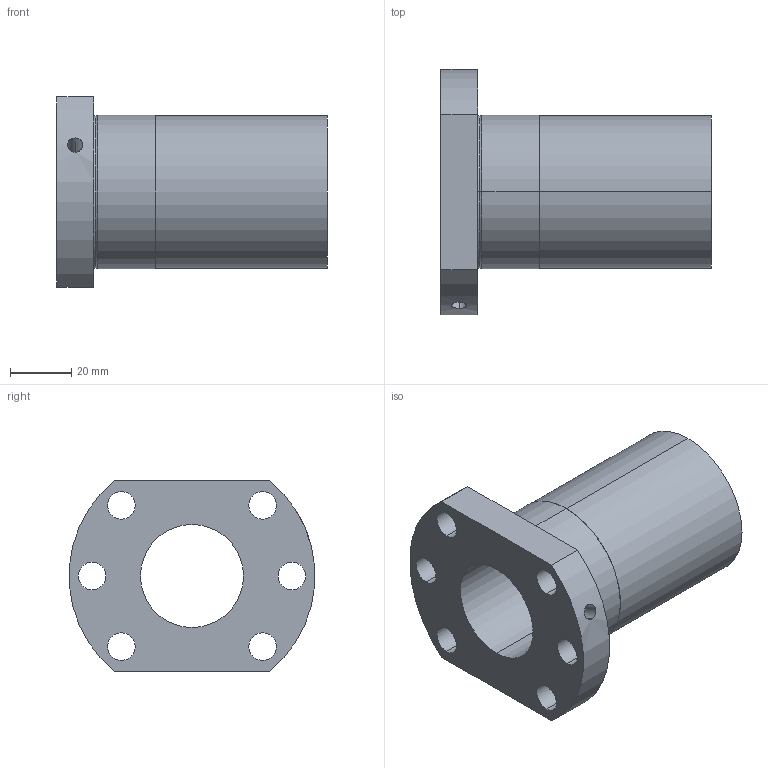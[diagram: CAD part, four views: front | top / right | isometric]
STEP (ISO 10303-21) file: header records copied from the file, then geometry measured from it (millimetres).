
FILE_DESCRIPTION (( 'STEP AP214' ), '1' );
FILE_NAME ('LLE3232-F.STEP', '2020-12-17T06:44:35', ( 'user' ), ( 'datathink' ), 'SwSTEP 2.0', 'SolidWorks 2013', '' );
FILE_SCHEMA (( 'AUTOMOTIVE_DESIGN' ));
Length unit declared in the file: millimetre
Products named in the file (1): LLE3232-F
Bounding box: 88 x 79.74 x 62 mm (x, y, z)
Volume: 118071.4 mm3; surface area: 32759.4 mm2
Topology: 1 solids, 1 shells, 32 faces, 80 edges, 52 vertices
Faces by surface type: cylinder 22, plane 6, torus 4
Entity records: 1184 total; most frequent: CARTESIAN_POINT 289, DIRECTION 190, ORIENTED_EDGE 160, AXIS2_PLACEMENT_3D 81, EDGE_CURVE 80, VERTEX_POINT 52, EDGE_LOOP 50, CIRCLE 48
